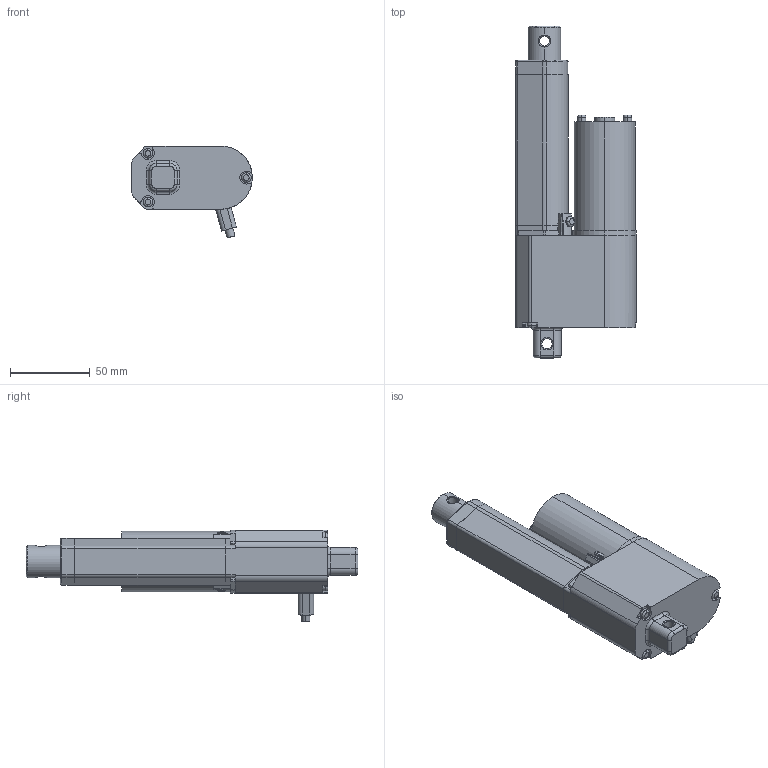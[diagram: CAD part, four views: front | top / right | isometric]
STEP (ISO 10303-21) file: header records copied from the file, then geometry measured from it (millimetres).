
FILE_DESCRIPTION (( 'STEP AP203' ), '1' );
FILE_NAME ('KTC-D24-50 _ 3D.STEP', '2018-08-23T15:38:07', ( '' ), ( '' ), 'SwSTEP 2.0', 'SolidWorks 2018', '' );
FILE_SCHEMA (( 'CONFIG_CONTROL_DESIGN' ));
Length unit declared in the file: millimetre
Products named in the file (3): KTC-D24-50 _ 3D; KTC-D24_3D(polegada)1; KTC-D24_3D(polegada)2
Assembly tree (2 placements, depth 2):
  KTC-D24-50 _ 3D
    KTC-D24_3D(polegada)1
    KTC-D24_3D(polegada)2
Bounding box: 75.69 x 208.29 x 57.66 mm (x, y, z)
Volume: 341332.5 mm3; surface area: 50143.2 mm2
Topology: 5 solids, 5 shells, 236 faces, 587 edges, 374 vertices
Faces by surface type: cylinder 112, plane 67, torus 36, cone 17, bspline 4
Entity records: 8819 total; most frequent: CARTESIAN_POINT 2711, DIRECTION 1327, ORIENTED_EDGE 1174, EDGE_CURVE 587, AXIS2_PLACEMENT_3D 539, VERTEX_POINT 374, CIRCLE 302, EDGE_LOOP 253
